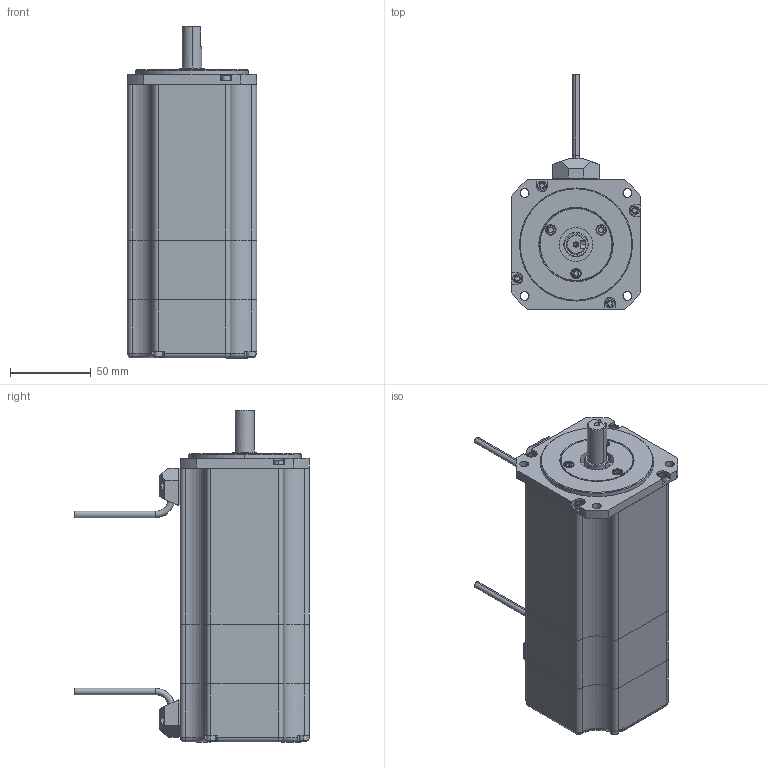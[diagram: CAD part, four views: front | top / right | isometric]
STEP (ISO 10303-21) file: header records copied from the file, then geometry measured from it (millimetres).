
FILE_DESCRIPTION (( 'STEP AP203' ), '1' );
FILE_NAME ('JM-CP80F-L-BE.STEP', '2017-04-08T03:39:15', ( '' ), ( '' ), 'SwSTEP 2.0', 'SolidWorks 2014', '' );
FILE_SCHEMA (( 'CONFIG_CONTROL_DESIGN' ));
Length unit declared in the file: millimetre
Products named in the file (31): NCA30162-X0-prt20; NCA30162-X0-prt5; NCA30162-X0-prt16; NCA30162-X0-prt7; NCA30162-X0-prt18; NCA30162-X0-prt27; NCA30162-X0-prt1; NCA30162-X0-prt22; NCA30162-X0-prt8; NCA30162-X0-prt10; NCA30162-X0-prt21; NCA30162-X0-prt6; NCA30162-X0-prt24; NCA30162-X0-prt13; NCA30162-X0-prt19; NCA30162-X0-prt25; NCA30162-X0-prt11; NCA30162-X0-prt3; NCA30162-X0-prt15; NCA30162-X0-prt14; NCA30162-X0-prt12; NCA30162-X0-prt28; NCA30162-X0-prt0; NCA30162-X0-prt17; NCA30162-X0-prt26; NCA30162-X0-prt9; NCA30162-X0-prt29; NCA30162-X0-prt23; NCA30162-X0-prt2; NCA30162-X0-prt4; JM-CP80F-L-BE
Assembly tree (30 placements, depth 2):
  JM-CP80F-L-BE
    NCA30162-X0-prt0
    NCA30162-X0-prt1
    NCA30162-X0-prt2
    NCA30162-X0-prt3
    NCA30162-X0-prt4
    NCA30162-X0-prt5
    NCA30162-X0-prt6
    NCA30162-X0-prt7
    NCA30162-X0-prt8
    NCA30162-X0-prt9
    NCA30162-X0-prt10
    NCA30162-X0-prt11
    NCA30162-X0-prt12
    NCA30162-X0-prt13
    NCA30162-X0-prt14
    NCA30162-X0-prt15
    NCA30162-X0-prt16
    NCA30162-X0-prt17
    NCA30162-X0-prt18
    NCA30162-X0-prt19
    NCA30162-X0-prt20
    NCA30162-X0-prt21
    NCA30162-X0-prt22
    NCA30162-X0-prt23
    NCA30162-X0-prt24
    NCA30162-X0-prt25
    NCA30162-X0-prt26
    NCA30162-X0-prt27
    NCA30162-X0-prt28
    NCA30162-X0-prt29
Bounding box: 80 x 145.35 x 205.5 mm (x, y, z)
Volume: 156541.7 mm3; surface area: 148322.7 mm2
Topology: 28 solids, 30 shells, 1164 faces, 2805 edges, 1760 vertices
Faces by surface type: plane 584, cylinder 376, bspline 82, torus 80, cone 42
Entity records: 40558 total; most frequent: CARTESIAN_POINT 10823, ORIENTED_EDGE 5566, DIRECTION 5369, EDGE_CURVE 2793, AXIS2_PLACEMENT_3D 1956, VERTEX_POINT 1759, VECTOR 1457, LINE 1457
